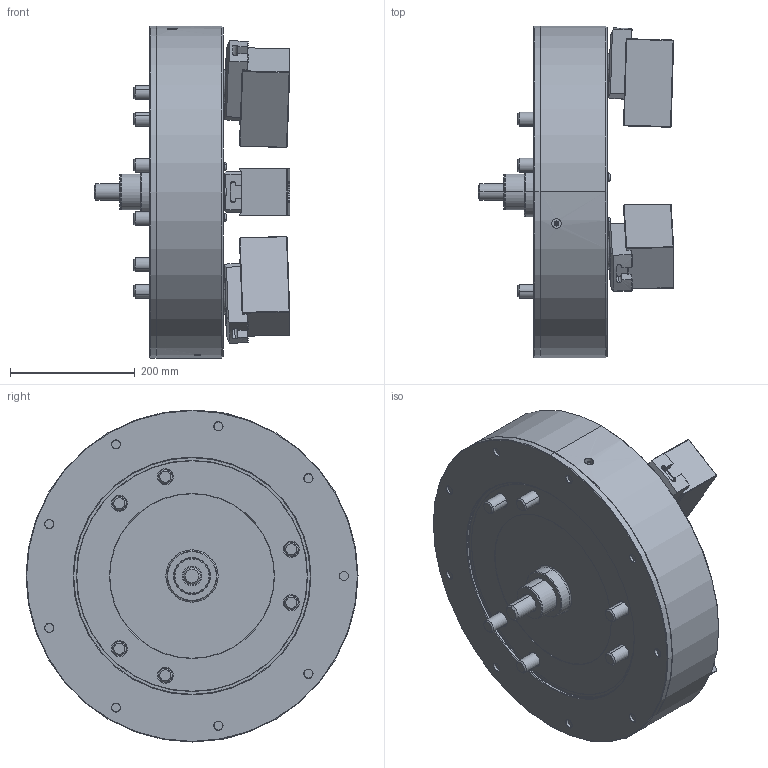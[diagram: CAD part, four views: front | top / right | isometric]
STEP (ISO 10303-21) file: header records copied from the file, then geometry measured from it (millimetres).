
FILE_DESCRIPTION (( 'STEP AP214' ), '1' );
FILE_NAME ('PW-21_OC.STEP', '2023-07-28T02:42:35', ( '' ), ( '' ), 'SwSTEP 2.0', 'SolidWorks 2020', '' );
FILE_SCHEMA (( 'AUTOMOTIVE_DESIGN' ));
Length unit declared in the file: millimetre
Products named in the file (5): 0030120030; PW-21_61P326096_ソフトジョー; Part41^61P118462_dummy; PW-21_OC; 61P422878
Assembly tree (13 placements, depth 2):
  PW-21_OC
    PW-21_61P326096_ソフトジョー  x3
    61P422878  x3
    0030120030  x6
    Part41^61P118462_dummy
Bounding box: 313.74 x 533 x 533 mm (x, y, z)
Volume: 28477535.2 mm3; surface area: 1172863.6 mm2
Topology: 13 solids, 17 shells, 3194 faces, 8226 edges, 5332 vertices
Faces by surface type: plane 1879, bspline 584, cone 372, cylinder 319, torus 32, sphere 8
Entity records: 112427 total; most frequent: CARTESIAN_POINT 44157, ORIENTED_EDGE 15284, DIRECTION 11692, EDGE_CURVE 7642, LINE 5114, VECTOR 5114, VERTEX_POINT 4989, AXIS2_PLACEMENT_3D 3289
